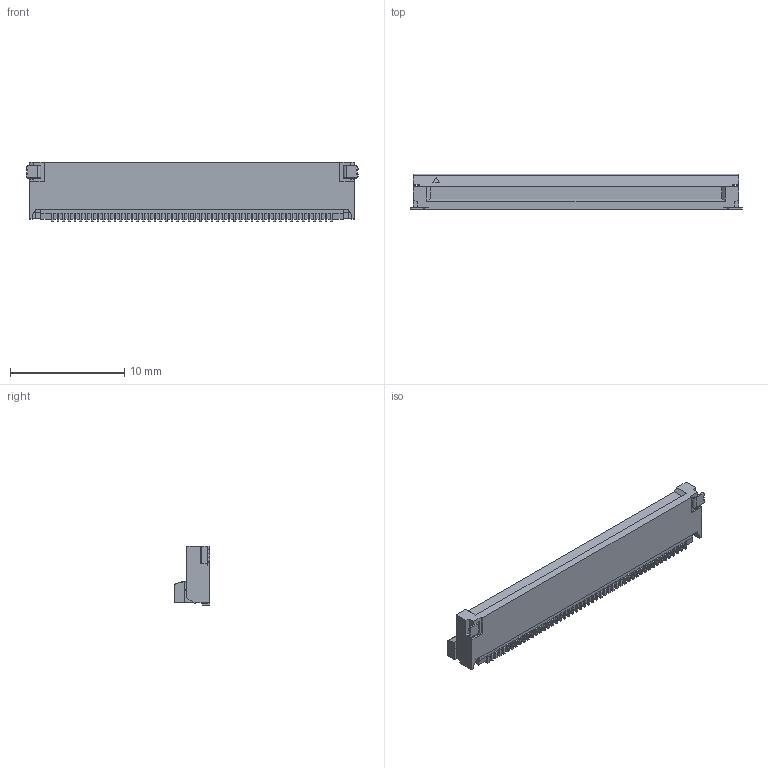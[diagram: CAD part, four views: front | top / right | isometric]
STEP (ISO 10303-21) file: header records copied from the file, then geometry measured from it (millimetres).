
FILE_DESCRIPTION (( 'STEP AP203' ), '1' );
FILE_NAME ('20477-050E-xxC ASS''Y ACT-OPEN STEP R0 ALL.STEP', '2013-05-10T07:33:49', ( 'kaihatsu-3dcad-3' ), ( '' ), 'SwSTEP 2.0', 'SolidWorks 2011', '' );
FILE_SCHEMA (( 'CONFIG_CONTROL_DESIGN' ));
Length unit declared in the file: millimetre
Products named in the file (1): 20477-050E-xxC ASS''Y ACT-OPEN STEP R0 ALL
Bounding box: 29.1 x 3.1 x 5.2 mm (x, y, z)
Volume: 285.2 mm3; surface area: 542.6 mm2
Topology: 1 solids, 1 shells, 762 faces, 2165 edges, 1408 vertices
Faces by surface type: plane 691, cylinder 67, cone 4
Entity records: 24309 total; most frequent: CARTESIAN_POINT 4369, ORIENTED_EDGE 4330, DIRECTION 3821, EDGE_CURVE 2165, VECTOR 2019, LINE 2019, VERTEX_POINT 1408, AXIS2_PLACEMENT_3D 901
